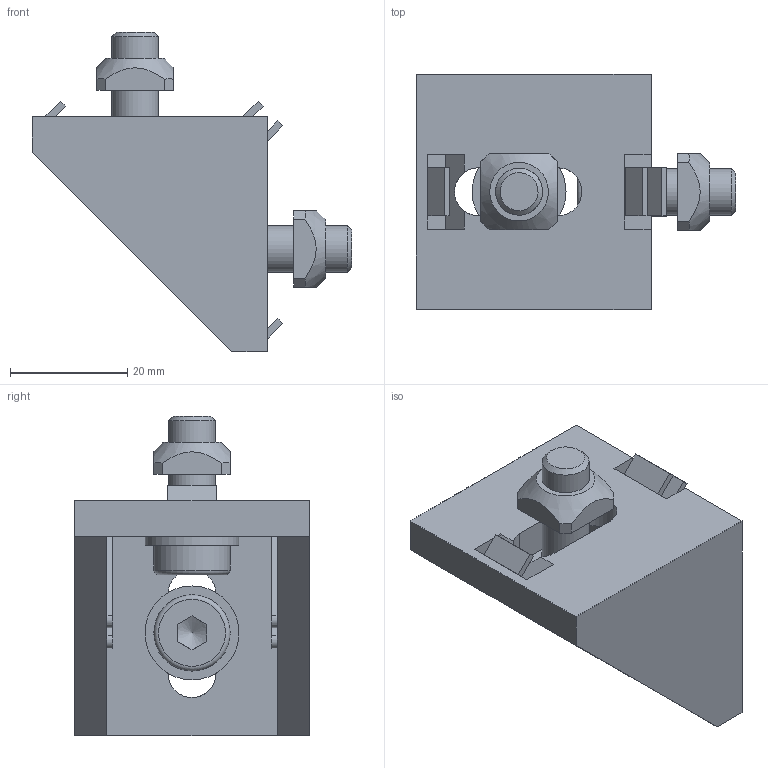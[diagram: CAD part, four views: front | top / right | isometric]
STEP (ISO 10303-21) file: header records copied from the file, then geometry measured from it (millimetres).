
FILE_DESCRIPTION((''),'2;1');
FILE_NAME('C:\Andys Backup Data\WEBSITE\DREAMWEAVER\MiniTec\Products\Profile_Fasteners\CAD\Step\21.1349 ANGLE 45 GD-Z.stp','2015-02-27T11:20:26',('Admin'),(''),'Autodesk Inventor 2012','Autodesk Inventor 2012','');
FILE_SCHEMA(('AUTOMOTIVE_DESIGN { 1 0 10303 214 1 1 1 1 }'));
Length unit declared in the file: millimetre
Products named in the file (5): 21.1349 ANGLE 45 GD-Z; 21.1280 M8X22; 21.1127 WASHER M8; 21.1351 M8 SQUARE NUT
Assembly tree (7 placements, depth 2):
  21.1349 ANGLE 45 GD-Z
    21.1349 ANGLE 45 GD-Z
    21.1280 M8X22  x2
    21.1127 WASHER M8  x2
    21.1351 M8 SQUARE NUT  x2
Bounding box: 54.4 x 40 x 54.4 mm (x, y, z)
Volume: 26954.3 mm3; surface area: 13969 mm2
Topology: 7 solids, 7 shells, 131 faces, 319 edges, 208 vertices
Faces by surface type: plane 105, cylinder 18, cone 6, torus 2
Full cylindrical faces by diameter (mm): 8 x4, 8.4 x2, 13 x2, 16 x2
Entity records: 3088 total; most frequent: CARTESIAN_POINT 546, DIRECTION 491, ORIENTED_EDGE 484, EDGE_CURVE 242, VECTOR 191, LINE 191, VERTEX_POINT 163, AXIS2_PLACEMENT_3D 150
